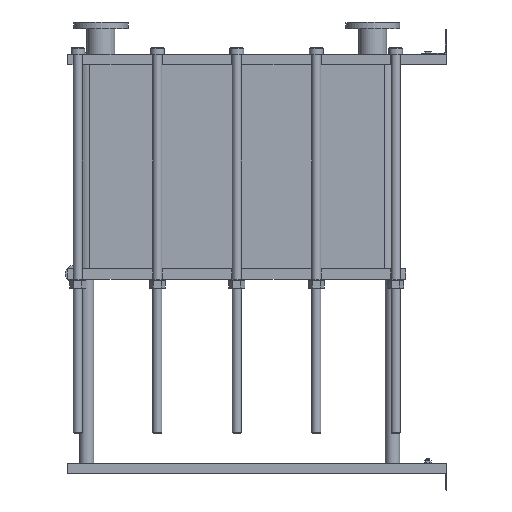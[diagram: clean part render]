
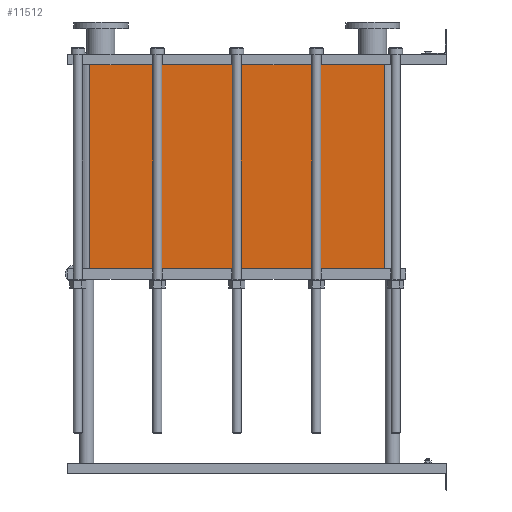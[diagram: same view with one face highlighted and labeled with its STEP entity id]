
A CAD part, left-side view. The second image highlights one B-rep face of the part: STEP entity #11512.
In plain terms, the highlighted planar face has unit normal (-1, 0, 0).
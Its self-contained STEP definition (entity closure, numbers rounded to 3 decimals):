
#1129=LINE('',#23232,#2102);
#1130=LINE('',#23236,#2103);
#1131=LINE('',#23238,#2104);
#1132=LINE('',#23239,#2105);
#2102=VECTOR('',#15887,10.);
#2103=VECTOR('',#15892,10.);
#2104=VECTOR('',#15893,10.);
#2105=VECTOR('',#15894,10.);
#3267=FACE_OUTER_BOUND('',#4093,.T.);
#4093=EDGE_LOOP('',(#10103,#10104,#10105,#10106));
#5642=VERTEX_POINT('',#23229);
#5643=VERTEX_POINT('',#23231);
#5644=VERTEX_POINT('',#23235);
#5645=VERTEX_POINT('',#23237);
#7159=EDGE_CURVE('',#5643,#5642,#1129,.T.);
#7161=EDGE_CURVE('',#5642,#5644,#1130,.T.);
#7162=EDGE_CURVE('',#5645,#5644,#1131,.T.);
#7163=EDGE_CURVE('',#5645,#5643,#1132,.T.);
#10103=ORIENTED_EDGE('',*,*,#7161,.T.);
#10104=ORIENTED_EDGE('',*,*,#7162,.F.);
#10105=ORIENTED_EDGE('',*,*,#7163,.T.);
#10106=ORIENTED_EDGE('',*,*,#7159,.T.);
#10857=PLANE('',#12751);
#11512=ADVANCED_FACE('',(#3267),#10857,.T.);
#12751=AXIS2_PLACEMENT_3D('',#23234,#15890,#15891);
#15887=DIRECTION('',(0.,0.,-1.));
#15890=DIRECTION('center_axis',(-1.,0.,0.));
#15891=DIRECTION('ref_axis',(0.,1.,0.));
#15892=DIRECTION('',(0.,-1.,0.));
#15893=DIRECTION('',(0.,0.,-1.));
#15894=DIRECTION('',(0.,1.,0.));
#23229=CARTESIAN_POINT('',(-200.,1414.,-807.3));
#23231=CARTESIAN_POINT('',(-200.,1414.,0.));
#23232=CARTESIAN_POINT('',(-200.,1414.,0.));
#23234=CARTESIAN_POINT('Origin',(-200.,248.,0.));
#23235=CARTESIAN_POINT('',(-200.,248.,-807.3));
#23236=CARTESIAN_POINT('',(-200.,539.5,-807.3));
#23237=CARTESIAN_POINT('',(-200.,248.,0.));
#23238=CARTESIAN_POINT('',(-200.,248.,0.));
#23239=CARTESIAN_POINT('',(-200.,248.,0.));
